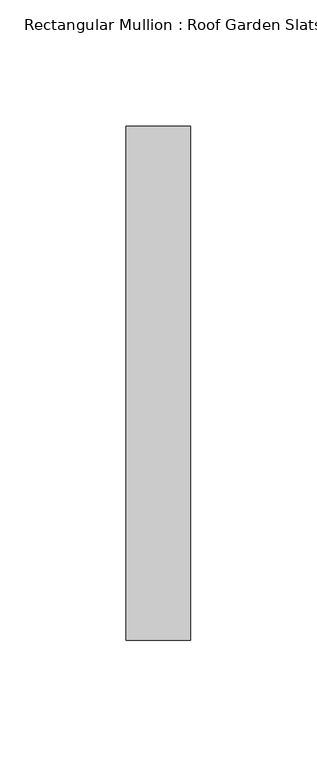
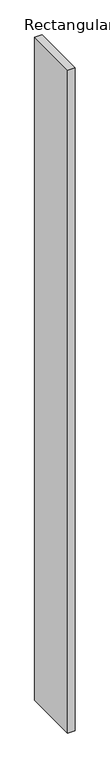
"""IFC4 building model written with IfcOpenShell, lengths in millimetres: member geometry, Rectangular Mullion : Roof Garden Slats."""

import ifcopenshell
import ifcopenshell.guid

model = None  # the IFC model being written
_history = None  # IfcOwnerHistory: only IFC2X3 demands one
_inside = {}  # id of a spatial element -> (the spatial element, [elements in it])
_under = {}  # id of a project, library or spatial element -> (it, [spatial elements below it])
_declared = {}  # id of a project -> (the project, [libraries it declares])
_typed = {}  # id of a type object -> (the type object, [elements of that type])
_made_of = {}  # id of a material, layer set ... -> (it, [elements and type objects made of it])


def new_model(schema):
    """Start an empty IFC model of exactly this schema.

    Asked for "IFC4X3", IfcOpenShell would pick the latest addendum, in which some entities
    have other attributes; the version numbers below select the first issue.
    IFC2X3 requires an IfcOwnerHistory on every rooted entity: one is made here for all.
    """
    global model, _history
    if schema == "IFC4X3":
        model = ifcopenshell.file(schema_version=(4, 3, 0, 0))
    else:
        model = ifcopenshell.file(schema=schema)
    _inside.clear()
    _under.clear()
    _declared.clear()
    _typed.clear()
    _made_of.clear()
    _history = None
    if model.schema == "IFC2X3":
        org = make("IfcOrganization", Name="unknown")
        user = make(
            "IfcPersonAndOrganization",
            ThePerson=make("IfcPerson", FamilyName="unknown"),
            TheOrganization=org,
        )
        app = make(
            "IfcApplication",
            ApplicationDeveloper=org,
            Version="unknown",
            ApplicationFullName="unknown",
            ApplicationIdentifier="unknown",
        )
        _history = make(
            "IfcOwnerHistory",
            OwningUser=user,
            OwningApplication=app,
            ChangeAction="ADDED",
            CreationDate=0,
        )
    return model


def make(cls, **values):
    """One entity of the class cls with the attributes given. An attribute that is None is left unset."""
    return model.create_entity(
        cls, **{name: value for name, value in values.items() if value is not None}
    )


def rooted(cls, **values):
    """An entity with a GlobalId (a new one), such as an element, a storey or a relation."""
    return make(cls, GlobalId=ifcopenshell.guid.new(), OwnerHistory=_history, **values)


def si_unit(unit_type, name, prefix=None):
    """IfcSIUnit, for example si_unit("LENGTHUNIT", "METRE", prefix="MILLI")."""
    return make("IfcSIUnit", UnitType=unit_type, Prefix=prefix, Name=name)


def assignment(units):
    """IfcUnitAssignment: the units of a project."""
    return None if units is None else make("IfcUnitAssignment", Units=units)


def point(xyz):
    """IfcCartesianPoint."""
    return None if xyz is None else make("IfcCartesianPoint", Coordinates=xyz)


def direction(xyz):
    """IfcDirection."""
    return None if xyz is None else make("IfcDirection", DirectionRatios=xyz)


def frame(location, z_axis=None, x_axis=None):
    """IfcAxis2Placement3D, a coordinate frame: its origin and axes. An axis left out is left unset."""
    return make(
        "IfcAxis2Placement3D",
        Location=point(location),
        Axis=direction(z_axis),
        RefDirection=direction(x_axis),
    )


def origin():
    """The frame at (0, 0, 0) with its axes left unset."""
    return frame((0.0, 0.0, 0.0))


def place(relative_to, where):
    """IfcLocalPlacement: puts the frame where relative to a parent placement (None: the world)."""
    return make(
        "IfcLocalPlacement", PlacementRelTo=relative_to, RelativePlacement=where
    )


def context(
    kind, dimensions, precision=None, world=None, true_north=None, identifier=None
):
    """IfcGeometricRepresentationContext, for example the 3D "Model" context."""
    return make(
        "IfcGeometricRepresentationContext",
        ContextIdentifier=identifier,
        ContextType=kind,
        CoordinateSpaceDimension=dimensions,
        Precision=precision,
        WorldCoordinateSystem=world,
        TrueNorth=true_north,
    )


def project(units=None, contexts=None):
    """IfcProject with its units and contexts."""
    return rooted(
        "IfcProject",
        Name="project",
        RepresentationContexts=contexts,
        UnitsInContext=assignment(units),
    )


def spatial(cls, under=None, at=None, **own):
    """A site, building, storey or space (cls), placed at a placement, below another one or the project."""
    s = rooted(cls, ObjectPlacement=at, **own)
    if under is not None:
        _under.setdefault(under.id(), (under, []))[1].append(s)
    return s


def polyline(points):
    """IfcPolyline through the points."""
    return make("IfcPolyline", Points=[point(p) for p in points])


def outline(outer, holes=None, kind="AREA"):
    """IfcArbitraryClosedProfileDef: a profile drawn as a closed curve; with holes, ...WithVoids."""
    if holes is None:
        return make("IfcArbitraryClosedProfileDef", ProfileType=kind, OuterCurve=outer)
    return make(
        "IfcArbitraryProfileDefWithVoids",
        ProfileType=kind,
        OuterCurve=outer,
        InnerCurves=holes,
    )


def extrude(swept, where, along, depth):
    """IfcExtrudedAreaSolid: the profile swept, set in the frame where, extruded along a direction by depth."""
    return make(
        "IfcExtrudedAreaSolid",
        SweptArea=swept,
        Position=where,
        ExtrudedDirection=direction(along),
        Depth=depth,
    )


def shape(context_of_items, identifier, shape_type, items):
    """IfcShapeRepresentation: the items that make up one representation, for example the "Body"."""
    return make(
        "IfcShapeRepresentation",
        ContextOfItems=context_of_items,
        RepresentationIdentifier=identifier,
        RepresentationType=shape_type,
        Items=items,
    )


def source(mapping_origin, context_of_items, identifier, shape_type, items):
    """IfcRepresentationMap: a shape defined once, which mapped items show again and again."""
    return make(
        "IfcRepresentationMap",
        MappingOrigin=mapping_origin,
        MappedRepresentation=shape(context_of_items, identifier, shape_type, items),
    )


def transform(
    local_origin,
    x_axis=None,
    y_axis=None,
    z_axis=None,
    scale=None,
    scale2=None,
    scale3=None,
    uniform=True,
):
    """IfcCartesianTransformationOperator3D, or its non-uniform kind. x_axis, y_axis, z_axis: its Axis1, 2, 3."""
    if uniform:
        return make(
            "IfcCartesianTransformationOperator3D",
            Axis1=direction(x_axis),
            Axis2=direction(y_axis),
            LocalOrigin=point(local_origin),
            Scale=scale,
            Axis3=direction(z_axis),
        )
    return make(
        "IfcCartesianTransformationOperator3DnonUniform",
        Axis1=direction(x_axis),
        Axis2=direction(y_axis),
        LocalOrigin=point(local_origin),
        Scale=scale,
        Axis3=direction(z_axis),
        Scale2=scale2,
        Scale3=scale3,
    )


def mapped(mapping_source, mapping_target):
    """IfcMappedItem: shows the shape of a source again, moved by a transform."""
    return make(
        "IfcMappedItem", MappingSource=mapping_source, MappingTarget=mapping_target
    )


def made_of(thing, what):
    """Note that an element or type object is made of a material, layer set ...; save() writes the relation."""
    if what is not None:
        _made_of.setdefault(what.id(), (what, []))[1].append(thing)
    return thing


def element(
    cls,
    number,
    at=None,
    inside=None,
    cuts=None,
    type_object=None,
    material=None,
    context=None,
    identifier="Body",
    shape_type=None,
    held_by="IfcProductDefinitionShape",
    body=None,
    shapes=None,
    **own,
):
    """One element of the class cls, such as IfcWall. Its Tag is "e" and its number.

    at: its placement. inside: the storey or other place that contains it. cuts: it is an
    opening in that element (IfcRelVoidsElement). A single representation is given by context,
    identifier, shape_type and body (its items); several are given by shapes. held_by: the class
    of the entity that holds the representations. save() writes the other relations.
    """
    e = rooted(cls, Tag="e%d" % number, ObjectPlacement=at, **own)
    if body is not None:
        shapes = [shape(context, identifier, shape_type, body)]
    if shapes is not None:
        e.Representation = make(held_by, Representations=shapes)
    if inside is not None:
        _inside.setdefault(inside.id(), (inside, []))[1].append(e)
    if cuts is not None:
        rooted(
            "IfcRelVoidsElement", RelatingBuildingElement=cuts, RelatedOpeningElement=e
        )
    if type_object is not None:
        _typed.setdefault(type_object.id(), (type_object, []))[1].append(e)
    return made_of(e, material)


def aggregate(whole, parts):
    """IfcRelAggregates: a whole, such as a stair, and the parts it consists of."""
    return rooted("IfcRelAggregates", RelatingObject=whole, RelatedObjects=parts)


def save(model, path):
    """Write the relations noted so far, then the file.

    IfcRelAggregates (storeys below a building ...), IfcRelContainedInSpatialStructure (elements
    in a storey), IfcRelDefinesByType, IfcRelAssociatesMaterial and IfcRelDeclares: one each for
    every whole, place, type object, material and project.
    """
    for whole, parts in _under.values():
        aggregate(whole, parts)
    for where, things in _inside.values():
        rooted(
            "IfcRelContainedInSpatialStructure",
            RelatedElements=things,
            RelatingStructure=where,
        )
    for kind, things in _typed.values():
        rooted("IfcRelDefinesByType", RelatedObjects=things, RelatingType=kind)
    for what, things in _made_of.values():
        rooted("IfcRelAssociatesMaterial", RelatedObjects=things, RelatingMaterial=what)
    for by, libraries in _declared.values():
        rooted("IfcRelDeclares", RelatingContext=by, RelatedDefinitions=libraries)
    model.write(path)


def rectangular_mullion_roof_garden_slats_c3b12d89(model_context):
    return source(origin(), model_context, "Body", "SweptSolid", [
        extrude(outline(polyline([(12.7, 139.7), (12.7, -63.5), (-12.7, -63.5), (-12.7, 139.7), (12.7, 139.7)])), frame((0.0, 0.0, -2485.6717634), z_axis=(0.0, 0.0, 1.0), x_axis=(1.0, 0.0, 0.0)), (0.0, 0.0, 1.0), 2485.6717634),
    ])


if __name__ == "__main__":
    model = new_model("IFC4")
    model_context = context("Model", 3, world=origin())
    ifc_project = project(units=[si_unit("LENGTHUNIT", "METRE", prefix="MILLI")], contexts=[model_context])
    site = spatial("IfcSite", under=ifc_project)
    building = spatial("IfcBuilding", under=site)
    placement = place(None, origin())
    rectangular_mullion_roof_garden_slats_shape = rectangular_mullion_roof_garden_slats_c3b12d89(model_context)
    element("IfcMember", 1, ObjectType="Rectangular Mullion : Roof Garden Slats", at=placement, inside=building, context=model_context, shape_type="MappedRepresentation", body=[
        mapped(rectangular_mullion_roof_garden_slats_shape, transform((0.0, 0.0, 0.0), x_axis=(1.0, 0.0, 0.0), y_axis=(0.0, 1.0, 0.0), z_axis=(0.0, 0.0, 1.0))),
    ])
    save(model, "model.ifc")
